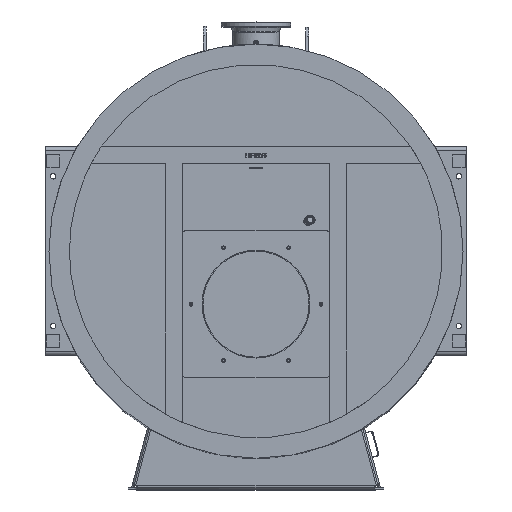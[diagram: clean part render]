
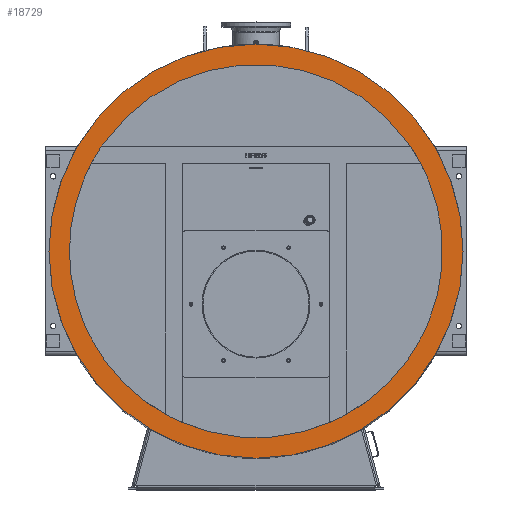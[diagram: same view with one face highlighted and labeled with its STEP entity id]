
A CAD part, top view. The second image highlights one B-rep face of the part: STEP entity #18729.
In plain terms, the highlighted planar face has unit normal (0, 0, 1).
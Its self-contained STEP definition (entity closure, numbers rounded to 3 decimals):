
#18630=CARTESIAN_POINT('',(-405.,1093.403,331.));
#18631=DIRECTION('',(0.,0.,1.));
#18632=DIRECTION('',(0.938,0.347,0.));
#18633=AXIS2_PLACEMENT_3D('',#18630,#18631,#18632);
#18634=PLANE('',#18633);
#18635=CARTESIAN_POINT('',(-1007.774,415.32,331.));
#18636=VERTEX_POINT('',#18635);
#18637=CARTESIAN_POINT('',(-880.405,642.64,331.));
#18638=VERTEX_POINT('',#18637);
#18639=CARTESIAN_POINT('',(38.125,-21.362,331.));
#18640=DIRECTION('',(0.,0.,-1.));
#18641=DIRECTION('',(-1.,0.,0.));
#18642=AXIS2_PLACEMENT_3D('',#18639,#18640,#18641);
#18643=CIRCLE('',#18642,1133.4);
#18644=EDGE_CURVE('',#18636,#18638,#18643,.T.);
#18645=ORIENTED_EDGE('',*,*,#18644,.T.);
#18646=CARTESIAN_POINT('',(880.405,642.64,331.));
#18647=VERTEX_POINT('',#18646);
#18648=CARTESIAN_POINT('',(0.,0.,331.));
#18649=DIRECTION('',(-0.,-0.,1.));
#18650=DIRECTION('',(-1.,0.,0.));
#18651=AXIS2_PLACEMENT_3D('',#18648,#18649,#18650);
#18652=CIRCLE('',#18651,1090.);
#18653=EDGE_CURVE('',#18647,#18638,#18652,.T.);
#18654=ORIENTED_EDGE('',*,*,#18653,.F.);
#18655=CARTESIAN_POINT('',(1007.774,415.32,331.));
#18656=VERTEX_POINT('',#18655);
#18657=CARTESIAN_POINT('',(-38.125,-21.362,331.));
#18658=DIRECTION('',(-0.,-0.,1.));
#18659=DIRECTION('',(-1.,0.,0.));
#18660=AXIS2_PLACEMENT_3D('',#18657,#18658,#18659);
#18661=CIRCLE('',#18660,1133.4);
#18662=EDGE_CURVE('',#18656,#18647,#18661,.T.);
#18663=ORIENTED_EDGE('',*,*,#18662,.F.);
#18664=CARTESIAN_POINT('',(1007.774,-415.32,331.));
#18665=VERTEX_POINT('',#18664);
#18666=CARTESIAN_POINT('',(0.,0.,331.));
#18667=DIRECTION('',(0.,0.,-1.));
#18668=DIRECTION('',(-1.,0.,0.));
#18669=AXIS2_PLACEMENT_3D('',#18666,#18667,#18668);
#18670=CIRCLE('',#18669,1090.);
#18671=EDGE_CURVE('',#18656,#18665,#18670,.T.);
#18672=ORIENTED_EDGE('',*,*,#18671,.T.);
#18673=CARTESIAN_POINT('',(880.405,-642.64,331.));
#18674=VERTEX_POINT('',#18673);
#18675=CARTESIAN_POINT('',(-38.125,21.362,331.));
#18676=DIRECTION('',(-0.,-0.,1.));
#18677=DIRECTION('',(-1.,0.,0.));
#18678=AXIS2_PLACEMENT_3D('',#18675,#18676,#18677);
#18679=CIRCLE('',#18678,1133.4);
#18680=EDGE_CURVE('',#18674,#18665,#18679,.T.);
#18681=ORIENTED_EDGE('',*,*,#18680,.F.);
#18682=CARTESIAN_POINT('',(-880.405,-642.64,331.));
#18683=VERTEX_POINT('',#18682);
#18684=CARTESIAN_POINT('',(0.,0.,331.));
#18685=DIRECTION('',(0.,0.,-1.));
#18686=DIRECTION('',(-1.,0.,0.));
#18687=AXIS2_PLACEMENT_3D('',#18684,#18685,#18686);
#18688=CIRCLE('',#18687,1090.);
#18689=EDGE_CURVE('',#18674,#18683,#18688,.T.);
#18690=ORIENTED_EDGE('',*,*,#18689,.T.);
#18691=CARTESIAN_POINT('',(-1007.774,-415.32,331.));
#18692=VERTEX_POINT('',#18691);
#18693=CARTESIAN_POINT('',(38.125,21.362,331.));
#18694=DIRECTION('',(-0.,-0.,1.));
#18695=DIRECTION('',(-1.,0.,0.));
#18696=AXIS2_PLACEMENT_3D('',#18693,#18694,#18695);
#18697=CIRCLE('',#18696,1133.4);
#18698=EDGE_CURVE('',#18692,#18683,#18697,.T.);
#18699=ORIENTED_EDGE('',*,*,#18698,.F.);
#18700=CARTESIAN_POINT('',(-1090.,-0.,331.));
#18701=VERTEX_POINT('',#18700);
#18702=CARTESIAN_POINT('',(0.,0.,331.));
#18703=DIRECTION('',(-0.,-0.,1.));
#18704=DIRECTION('',(-1.,0.,0.));
#18705=AXIS2_PLACEMENT_3D('',#18702,#18703,#18704);
#18706=CIRCLE('',#18705,1090.);
#18707=EDGE_CURVE('',#18701,#18692,#18706,.T.);
#18708=ORIENTED_EDGE('',*,*,#18707,.F.);
#18709=CARTESIAN_POINT('',(0.,0.,331.));
#18710=DIRECTION('',(-0.,-0.,1.));
#18711=DIRECTION('',(-1.,0.,0.));
#18712=AXIS2_PLACEMENT_3D('',#18709,#18710,#18711);
#18713=CIRCLE('',#18712,1090.);
#18714=EDGE_CURVE('',#18636,#18701,#18713,.T.);
#18715=ORIENTED_EDGE('',*,*,#18714,.F.);
#18716=EDGE_LOOP('',(#18645,#18654,#18663,#18672,#18681,#18690,#18699,#18708,#18715));
#18717=FACE_BOUND('',#18716,.T.);
#18718=CARTESIAN_POINT('',(1210.,-0.,331.));
#18719=VERTEX_POINT('',#18718);
#18720=CARTESIAN_POINT('',(0.,0.,331.));
#18721=DIRECTION('',(0.,0.,1.));
#18722=DIRECTION('',(1.,0.,-0.));
#18723=AXIS2_PLACEMENT_3D('',#18720,#18721,#18722);
#18724=CIRCLE('',#18723,1210.);
#18725=EDGE_CURVE('',#18719,#18719,#18724,.T.);
#18726=ORIENTED_EDGE('',*,*,#18725,.T.);
#18727=EDGE_LOOP('',(#18726));
#18728=FACE_BOUND('',#18727,.T.);
#18729=ADVANCED_FACE('',(#18717,#18728),#18634,.T.);
